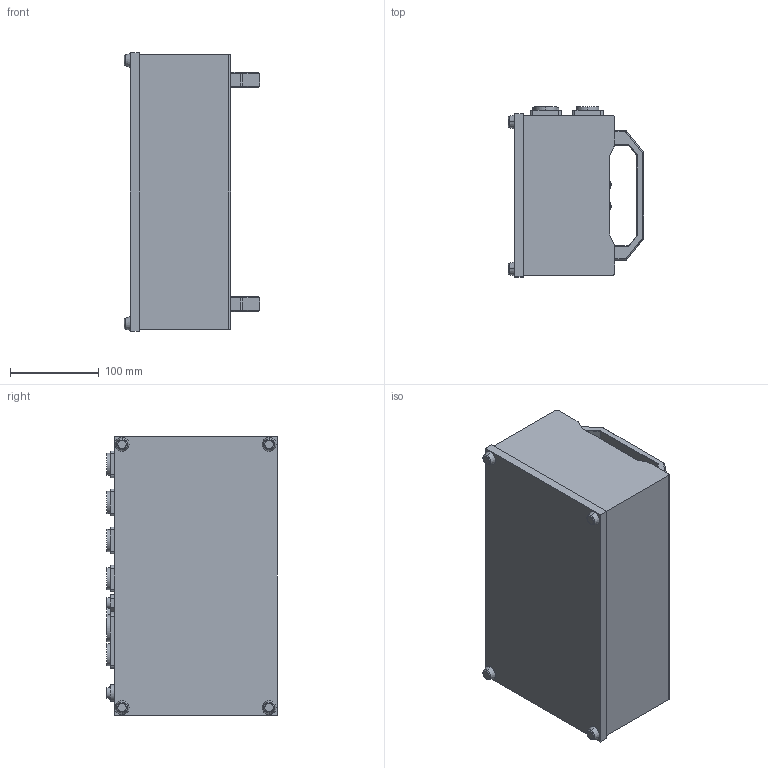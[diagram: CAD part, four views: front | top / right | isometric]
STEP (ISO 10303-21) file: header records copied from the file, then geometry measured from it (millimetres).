
FILE_DESCRIPTION((''),'2;1');
FILE_NAME('GLP-16763','2024-12-10T11:45:54',('LeovomKolke'),(''),'CREO PARAMETRIC BY PTC INC, 2024133','CREO PARAMETRIC BY PTC INC, 2024133','');
FILE_SCHEMA(('AUTOMOTIVE_DESIGN { 1 0 10303 214 1 1 1 1 }'));
Length unit declared in the file: millimetre
Products named in the file (1): GLP-16763
Bounding box: 153.1 x 192 x 314 mm (x, y, z)
Volume: 6301580.1 mm3; surface area: 256498.7 mm2
Topology: 1 solids, 1 shells, 311 faces, 802 edges, 521 vertices
Faces by surface type: plane 165, cylinder 118, torus 10, revolution 8, cone 8, sphere 2
Entity records: 10188 total; most frequent: CARTESIAN_POINT 2051, DIRECTION 1591, ORIENTED_EDGE 1584, EDGE_CURVE 792, AXIS2_PLACEMENT_3D 534, VERTEX_POINT 521, VECTOR 512, LINE 512
